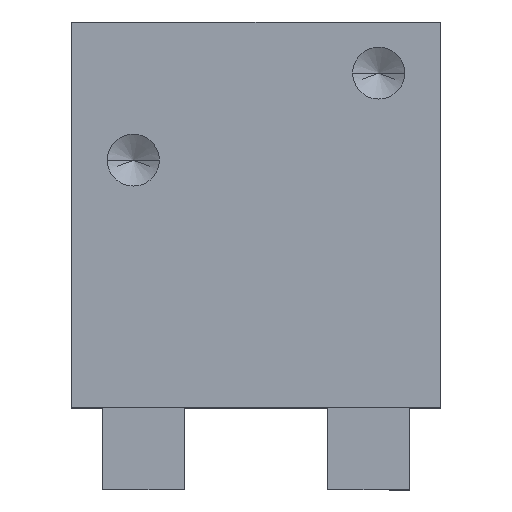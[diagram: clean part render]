
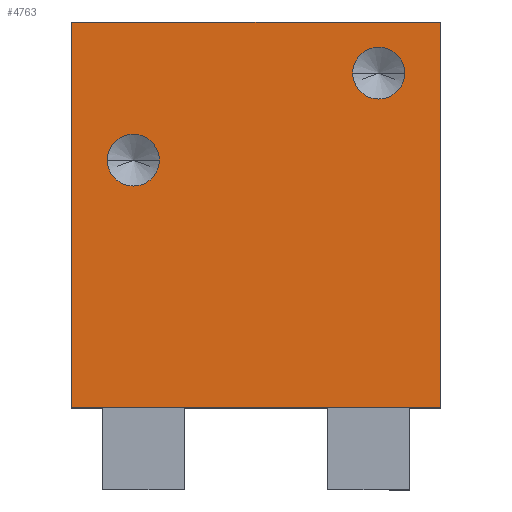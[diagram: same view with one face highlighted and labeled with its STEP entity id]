
A CAD part, top view. The second image highlights one B-rep face of the part: STEP entity #4763.
In plain terms, the highlighted planar face has unit normal (0, 0, 1).
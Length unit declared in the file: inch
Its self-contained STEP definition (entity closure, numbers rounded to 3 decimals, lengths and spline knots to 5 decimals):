
#51 = VECTOR ( 'NONE', #1110, 39.37008 ) ;
#58 = LINE ( 'NONE', #4419, #51 ) ;
#59 = CIRCLE ( 'NONE', #4007, 0.0795 ) ;
#110 = CARTESIAN_POINT ( 'NONE',  ( -0.2955, 0.167, 0.5 ) ) ;
#117 = AXIS2_PLACEMENT_3D ( 'NONE', #4529, #4539, #2898 ) ;
#154 = ORIENTED_EDGE ( 'NONE', *, *, #1507, .F. ) ;
#217 = EDGE_CURVE ( 'NONE', #4570, #540, #58, .T. ) ;
#246 = LINE ( 'NONE', #5093, #4793 ) ;
#312 = CARTESIAN_POINT ( 'NONE',  ( -0.375, 0.167, 0.5 ) ) ;
#331 = AXIS2_PLACEMENT_3D ( 'NONE', #312, #3226, #747 ) ;
#540 = VERTEX_POINT ( 'NONE', #1307 ) ;
#733 = CARTESIAN_POINT ( 'NONE',  ( -0.5625, -0.589, 0.5 ) ) ;
#747 = DIRECTION ( 'NONE',  ( 1., 0., 0. ) ) ;
#752 = DIRECTION ( 'NONE',  ( 0., 0., 1. ) ) ;
#805 = VERTEX_POINT ( 'NONE', #5091 ) ;
#810 = AXIS2_PLACEMENT_3D ( 'NONE', #3229, #752, #3649 ) ;
#848 = CARTESIAN_POINT ( 'NONE',  ( 0.4545, 0.433, 0.5 ) ) ;
#980 = VERTEX_POINT ( 'NONE', #1758 ) ;
#1074 = LINE ( 'NONE', #4634, #4262 ) ;
#1105 = FACE_BOUND ( 'NONE', #1224, .T. ) ;
#1110 = DIRECTION ( 'NONE',  ( 1., 0., 0. ) ) ;
#1224 = EDGE_LOOP ( 'NONE', ( #2203, #5089 ) ) ;
#1307 = CARTESIAN_POINT ( 'NONE',  ( 0.5625, 0.589, 0.5 ) ) ;
#1449 = DIRECTION ( 'NONE',  ( 0., 0., 1. ) ) ;
#1507 = EDGE_CURVE ( 'NONE', #1880, #2250, #2757, .T. ) ;
#1510 = CARTESIAN_POINT ( 'NONE',  ( -0.375, 0.167, 0.5 ) ) ;
#1575 = LINE ( 'NONE', #733, #3646 ) ;
#1758 = CARTESIAN_POINT ( 'NONE',  ( 0.2955, 0.433, 0.5 ) ) ;
#1813 = EDGE_CURVE ( 'NONE', #540, #805, #1074, .T. ) ;
#1880 = VERTEX_POINT ( 'NONE', #110 ) ;
#1930 = DIRECTION ( 'NONE',  ( 1., 0., 0. ) ) ;
#2203 = ORIENTED_EDGE ( 'NONE', *, *, #3543, .F. ) ;
#2223 = FACE_OUTER_BOUND ( 'NONE', #5128, .T. ) ;
#2233 = CIRCLE ( 'NONE', #810, 0.0795 ) ;
#2250 = VERTEX_POINT ( 'NONE', #5216 ) ;
#2353 = ORIENTED_EDGE ( 'NONE', *, *, #2649, .T. ) ;
#2429 = ORIENTED_EDGE ( 'NONE', *, *, #4754, .T. ) ;
#2550 = ORIENTED_EDGE ( 'NONE', *, *, #217, .F. ) ;
#2557 = DIRECTION ( 'NONE',  ( 0., -1., 0. ) ) ;
#2649 = EDGE_CURVE ( 'NONE', #4769, #805, #1575, .T. ) ;
#2757 = CIRCLE ( 'NONE', #331, 0.0795 ) ;
#2763 = VERTEX_POINT ( 'NONE', #848 ) ;
#2898 = DIRECTION ( 'NONE',  ( -1., 0., 0. ) ) ;
#3045 = ORIENTED_EDGE ( 'NONE', *, *, #5205, .F. ) ;
#3226 = DIRECTION ( 'NONE',  ( 0., 0., 1. ) ) ;
#3229 = CARTESIAN_POINT ( 'NONE',  ( 0.375, 0.433, 0.5 ) ) ;
#3543 = EDGE_CURVE ( 'NONE', #2763, #980, #2233, .T. ) ;
#3623 = DIRECTION ( 'NONE',  ( 1., 0., 0. ) ) ;
#3646 = VECTOR ( 'NONE', #3623, 39.37008 ) ;
#3649 = DIRECTION ( 'NONE',  ( 1., 0., 0. ) ) ;
#3676 = DIRECTION ( 'NONE',  ( 0., -1., 0. ) ) ;
#3916 = ORIENTED_EDGE ( 'NONE', *, *, #1813, .F. ) ;
#3930 = CARTESIAN_POINT ( 'NONE',  ( 0.375, 0.433, 0.5 ) ) ;
#3963 = CIRCLE ( 'NONE', #4569, 0.0795 ) ;
#4007 = AXIS2_PLACEMENT_3D ( 'NONE', #3930, #1449, #4338 ) ;
#4119 = CARTESIAN_POINT ( 'NONE',  ( -0.5625, -0.589, 0.5 ) ) ;
#4262 = VECTOR ( 'NONE', #2557, 39.37008 ) ;
#4338 = DIRECTION ( 'NONE',  ( 1., 0., 0. ) ) ;
#4392 = DIRECTION ( 'NONE',  ( 0., 0., 1. ) ) ;
#4419 = CARTESIAN_POINT ( 'NONE',  ( -0.5625, 0.589, 0.5 ) ) ;
#4425 = EDGE_LOOP ( 'NONE', ( #154, #3045 ) ) ;
#4529 = CARTESIAN_POINT ( 'NONE',  ( -0.5625, 0.589, 0.5 ) ) ;
#4539 = DIRECTION ( 'NONE',  ( 0., 0., -1. ) ) ;
#4540 = FACE_BOUND ( 'NONE', #4425, .T. ) ;
#4569 = AXIS2_PLACEMENT_3D ( 'NONE', #1510, #4392, #1930 ) ;
#4570 = VERTEX_POINT ( 'NONE', #5010 ) ;
#4634 = CARTESIAN_POINT ( 'NONE',  ( 0.5625, 0.589, 0.5 ) ) ;
#4754 = EDGE_CURVE ( 'NONE', #4570, #4769, #246, .T. ) ;
#4763 = ADVANCED_FACE ( 'NONE', ( #4540, #1105, #2223 ), #4964, .F. ) ;
#4769 = VERTEX_POINT ( 'NONE', #4119 ) ;
#4793 = VECTOR ( 'NONE', #3676, 39.37008 ) ;
#4964 = PLANE ( 'NONE',  #117 ) ;
#5010 = CARTESIAN_POINT ( 'NONE',  ( -0.5625, 0.589, 0.5 ) ) ;
#5036 = EDGE_CURVE ( 'NONE', #980, #2763, #59, .T. ) ;
#5089 = ORIENTED_EDGE ( 'NONE', *, *, #5036, .F. ) ;
#5091 = CARTESIAN_POINT ( 'NONE',  ( 0.5625, -0.589, 0.5 ) ) ;
#5093 = CARTESIAN_POINT ( 'NONE',  ( -0.5625, 0.589, 0.5 ) ) ;
#5128 = EDGE_LOOP ( 'NONE', ( #2353, #3916, #2550, #2429 ) ) ;
#5205 = EDGE_CURVE ( 'NONE', #2250, #1880, #3963, .T. ) ;
#5216 = CARTESIAN_POINT ( 'NONE',  ( -0.4545, 0.167, 0.5 ) ) ;
